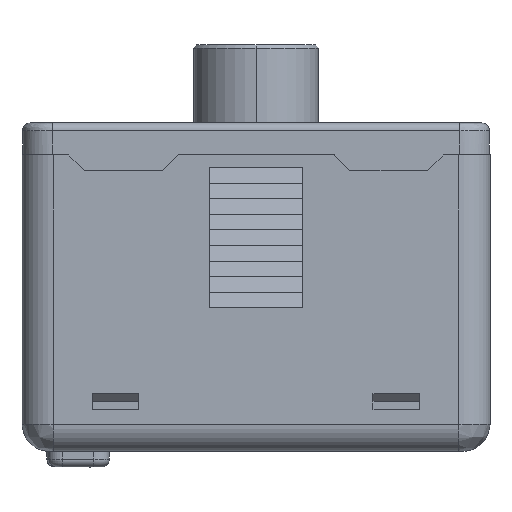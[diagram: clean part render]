
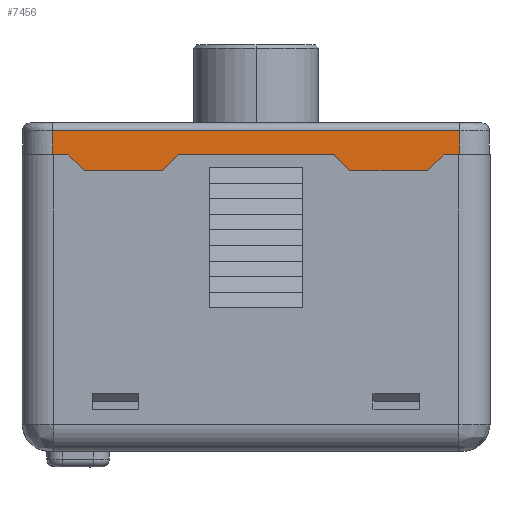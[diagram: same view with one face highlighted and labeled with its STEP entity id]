
A CAD part, left-side view. The second image highlights one B-rep face of the part: STEP entity #7456.
In plain terms, the highlighted planar face has unit normal (-1, 0, 0.009).
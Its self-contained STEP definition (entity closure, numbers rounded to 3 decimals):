
#110 = CARTESIAN_POINT ( 'NONE',  ( -39.967, -67.462, 0.01 ) ) ;
#190 = DIRECTION ( 'NONE',  ( 0., -1., 0. ) ) ;
#296 = EDGE_CURVE ( 'NONE', #444, #12205, #9133, .T. ) ;
#298 = VERTEX_POINT ( 'NONE', #16671 ) ;
#375 = ORIENTED_EDGE ( 'NONE', *, *, #21994, .T. ) ;
#444 = VERTEX_POINT ( 'NONE', #2298 ) ;
#639 = DIRECTION ( 'NONE',  ( 0.007, 0.643, 0.766 ) ) ;
#781 = VERTEX_POINT ( 'NONE', #17230 ) ;
#1206 = DIRECTION ( 'NONE',  ( -0.006, 0.707, -0.707 ) ) ;
#1502 = VECTOR ( 'NONE', #7101, 1000. ) ;
#1591 = CARTESIAN_POINT ( 'NONE',  ( -39.967, -74.69, 0.01 ) ) ;
#1884 = ORIENTED_EDGE ( 'NONE', *, *, #3187, .T. ) ;
#1942 = EDGE_CURVE ( 'NONE', #3034, #10874, #22831, .T. ) ;
#1990 = CARTESIAN_POINT ( 'NONE',  ( -39.975, -68.369, -0.909 ) ) ;
#2017 = DIRECTION ( 'NONE',  ( 1., 0., -0.009 ) ) ;
#2225 = VERTEX_POINT ( 'NONE', #7692 ) ;
#2290 = LINE ( 'NONE', #11624, #10925 ) ;
#2298 = CARTESIAN_POINT ( 'NONE',  ( -39.968, -67.524, -0.064 ) ) ;
#2369 = LINE ( 'NONE', #4363, #6111 ) ;
#2552 = LINE ( 'NONE', #21974, #22938 ) ;
#2656 = CARTESIAN_POINT ( 'NONE',  ( -39.967, -49.432, 0.01 ) ) ;
#2749 = AXIS2_PLACEMENT_3D ( 'NONE', #11160, #2017, #190 ) ;
#2802 = VECTOR ( 'NONE', #5470, 1000. ) ;
#2896 = CARTESIAN_POINT ( 'NONE',  ( -39.967, -57.538, 0.01 ) ) ;
#2985 = EDGE_CURVE ( 'NONE', #11643, #298, #2369, .T. ) ;
#3012 = LINE ( 'NONE', #2896, #21963 ) ;
#3034 = VERTEX_POINT ( 'NONE', #22983 ) ;
#3129 = DIRECTION ( 'NONE',  ( -0.007, 0.643, -0.766 ) ) ;
#3187 = EDGE_CURVE ( 'NONE', #19683, #7683, #13553, .T. ) ;
#3321 = CARTESIAN_POINT ( 'NONE',  ( -39.968, -47.5, -0.04 ) ) ;
#3400 = CARTESIAN_POINT ( 'NONE',  ( -39.967, -57.538, 0.01 ) ) ;
#3605 = DIRECTION ( 'NONE',  ( 0., -1., 0. ) ) ;
#3760 = CARTESIAN_POINT ( 'NONE',  ( -39.967, -57.538, 0.01 ) ) ;
#3770 = ORIENTED_EDGE ( 'NONE', *, *, #23713, .T. ) ;
#3885 = CARTESIAN_POINT ( 'NONE',  ( -39.977, -73.5, -1.04 ) ) ;
#4051 = CARTESIAN_POINT ( 'NONE',  ( -39.967, -49.432, 0.01 ) ) ;
#4173 = ORIENTED_EDGE ( 'NONE', *, *, #1942, .F. ) ;
#4198 = LINE ( 'NONE', #8254, #11094 ) ;
#4308 = ORIENTED_EDGE ( 'NONE', *, *, #10461, .F. ) ;
#4363 = CARTESIAN_POINT ( 'NONE',  ( -39.977, -51.36, -1.04 ) ) ;
#4490 = CARTESIAN_POINT ( 'NONE',  ( -39.968, -74.64, -0.04 ) ) ;
#4658 = CARTESIAN_POINT ( 'NONE',  ( -39.967, -74.631, 0.091 ) ) ;
#5103 = EDGE_LOOP ( 'NONE', ( #23695, #375, #12914, #19692, #4308, #7781, #17028, #15642, #1884, #15886, #7622, #4173, #13902, #10938, #3770, #19344, #13395, #17404 ) ) ;
#5261 = DIRECTION ( 'NONE',  ( 0., -1., 0. ) ) ;
#5470 = DIRECTION ( 'NONE',  ( 0., 1., 0. ) ) ;
#6111 = VECTOR ( 'NONE', #13341, 1000. ) ;
#6168 = EDGE_CURVE ( 'NONE', #10261, #14349, #16277, .T. ) ;
#6318 = DIRECTION ( 'NONE',  ( 0., 1., 0. ) ) ;
#6388 = LINE ( 'NONE', #21737, #1502 ) ;
#6500 = DIRECTION ( 'NONE',  ( 0.006, -0.707, 0.707 ) ) ;
#6606 = VECTOR ( 'NONE', #19186, 1000. ) ;
#6744 = CARTESIAN_POINT ( 'NONE',  ( -39.968, -50.36, -0.04 ) ) ;
#6939 = LINE ( 'NONE', #1591, #21840 ) ;
#7067 = DIRECTION ( 'NONE',  ( 0.006, -0.707, 0.707 ) ) ;
#7073 = CARTESIAN_POINT ( 'NONE',  ( -39.967, -75.568, 0.01 ) ) ;
#7096 = CARTESIAN_POINT ( 'NONE',  ( -39.968, -47.5, -0.04 ) ) ;
#7101 = DIRECTION ( 'NONE',  ( -0.006, -0.707, -0.707 ) ) ;
#7196 = EDGE_CURVE ( 'NONE', #11643, #21061, #10214, .T. ) ;
#7290 = CARTESIAN_POINT ( 'NONE',  ( -39.968, -50.5, -0.04 ) ) ;
#7393 = DIRECTION ( 'NONE',  ( -0.006, -0.707, -0.707 ) ) ;
#7399 = CARTESIAN_POINT ( 'NONE',  ( -39.954, -75.554, 1.514 ) ) ;
#7430 = VERTEX_POINT ( 'NONE', #110 ) ;
#7456 = ADVANCED_FACE ( 'NONE', ( #10186 ), #22158, .F. ) ;
#7622 = ORIENTED_EDGE ( 'NONE', *, *, #11984, .T. ) ;
#7683 = VERTEX_POINT ( 'NONE', #4490 ) ;
#7692 = CARTESIAN_POINT ( 'NONE',  ( -39.968, -57.476, -0.064 ) ) ;
#7699 = LINE ( 'NONE', #7399, #2802 ) ;
#7781 = ORIENTED_EDGE ( 'NONE', *, *, #296, .T. ) ;
#8005 = VERTEX_POINT ( 'NONE', #21195 ) ;
#8254 = CARTESIAN_POINT ( 'NONE',  ( -39.967, -57.631, 0.091 ) ) ;
#8321 = DIRECTION ( 'NONE',  ( -0.009, 0.009, -1. ) ) ;
#8674 = EDGE_CURVE ( 'NONE', #21061, #14349, #6388, .T. ) ;
#8749 = VECTOR ( 'NONE', #8321, 1000. ) ;
#8846 = CARTESIAN_POINT ( 'NONE',  ( -39.977, -56.5, -1.04 ) ) ;
#9133 = LINE ( 'NONE', #1990, #15732 ) ;
#9929 = CARTESIAN_POINT ( 'NONE',  ( -39.954, -49.446, 1.514 ) ) ;
#10146 = VERTEX_POINT ( 'NONE', #3400 ) ;
#10186 = FACE_OUTER_BOUND ( 'NONE', #5103, .T. ) ;
#10214 = LINE ( 'NONE', #7096, #15095 ) ;
#10261 = VERTEX_POINT ( 'NONE', #8846 ) ;
#10461 = EDGE_CURVE ( 'NONE', #444, #7430, #2290, .T. ) ;
#10482 = VECTOR ( 'NONE', #3605, 1000. ) ;
#10820 = VECTOR ( 'NONE', #6318, 1000. ) ;
#10874 = VERTEX_POINT ( 'NONE', #7073 ) ;
#10925 = VECTOR ( 'NONE', #639, 1000. ) ;
#10938 = ORIENTED_EDGE ( 'NONE', *, *, #15961, .T. ) ;
#11066 = LINE ( 'NONE', #3760, #10482 ) ;
#11094 = VECTOR ( 'NONE', #7067, 1000. ) ;
#11160 = CARTESIAN_POINT ( 'NONE',  ( -39.95, -79.308, 2.01 ) ) ;
#11624 = CARTESIAN_POINT ( 'NONE',  ( -39.977, -68.343, -1.04 ) ) ;
#11643 = VERTEX_POINT ( 'NONE', #6744 ) ;
#11683 = CARTESIAN_POINT ( 'NONE',  ( -39.977, -56.657, -1.04 ) ) ;
#11984 = EDGE_CURVE ( 'NONE', #781, #10874, #6939, .T. ) ;
#12062 = CARTESIAN_POINT ( 'NONE',  ( -39.968, -74.5, -0.04 ) ) ;
#12205 = VERTEX_POINT ( 'NONE', #22514 ) ;
#12646 = DIRECTION ( 'NONE',  ( 0., 1., 0. ) ) ;
#12914 = ORIENTED_EDGE ( 'NONE', *, *, #15400, .F. ) ;
#12958 = VERTEX_POINT ( 'NONE', #4051 ) ;
#13341 = DIRECTION ( 'NONE',  ( 0.006, 0.707, 0.707 ) ) ;
#13395 = ORIENTED_EDGE ( 'NONE', *, *, #7196, .T. ) ;
#13553 = LINE ( 'NONE', #3321, #19015 ) ;
#13902 = ORIENTED_EDGE ( 'NONE', *, *, #13915, .T. ) ;
#13915 = EDGE_CURVE ( 'NONE', #3034, #8005, #7699, .T. ) ;
#14292 = DIRECTION ( 'NONE',  ( 0., -1., 0. ) ) ;
#14349 = VERTEX_POINT ( 'NONE', #22930 ) ;
#15095 = VECTOR ( 'NONE', #14292, 1000. ) ;
#15164 = VERTEX_POINT ( 'NONE', #3885 ) ;
#15400 = EDGE_CURVE ( 'NONE', #10146, #2225, #3012, .T. ) ;
#15642 = ORIENTED_EDGE ( 'NONE', *, *, #20338, .T. ) ;
#15732 = VECTOR ( 'NONE', #7393, 1000. ) ;
#15796 = VECTOR ( 'NONE', #1206, 1000. ) ;
#15886 = ORIENTED_EDGE ( 'NONE', *, *, #23741, .F. ) ;
#15961 = EDGE_CURVE ( 'NONE', #8005, #12958, #22249, .T. ) ;
#16277 = LINE ( 'NONE', #11683, #10820 ) ;
#16671 = CARTESIAN_POINT ( 'NONE',  ( -39.967, -50.31, 0.01 ) ) ;
#17028 = ORIENTED_EDGE ( 'NONE', *, *, #20538, .F. ) ;
#17230 = CARTESIAN_POINT ( 'NONE',  ( -39.967, -74.69, 0.01 ) ) ;
#17404 = ORIENTED_EDGE ( 'NONE', *, *, #8674, .T. ) ;
#17858 = CARTESIAN_POINT ( 'NONE',  ( -39.954, -75.554, 1.514 ) ) ;
#17930 = VECTOR ( 'NONE', #19721, 1000. ) ;
#18085 = LINE ( 'NONE', #23280, #15796 ) ;
#18659 = LINE ( 'NONE', #4658, #21791 ) ;
#19015 = VECTOR ( 'NONE', #5261, 1000. ) ;
#19186 = DIRECTION ( 'NONE',  ( 0., -1., 0. ) ) ;
#19344 = ORIENTED_EDGE ( 'NONE', *, *, #2985, .F. ) ;
#19683 = VERTEX_POINT ( 'NONE', #12062 ) ;
#19692 = ORIENTED_EDGE ( 'NONE', *, *, #22178, .T. ) ;
#19721 = DIRECTION ( 'NONE',  ( -0.009, -0.009, -1. ) ) ;
#20338 = EDGE_CURVE ( 'NONE', #15164, #19683, #18659, .T. ) ;
#20538 = EDGE_CURVE ( 'NONE', #15164, #12205, #2552, .T. ) ;
#21061 = VERTEX_POINT ( 'NONE', #7290 ) ;
#21195 = CARTESIAN_POINT ( 'NONE',  ( -39.954, -49.446, 1.514 ) ) ;
#21633 = DIRECTION ( 'NONE',  ( 0., -1., 0. ) ) ;
#21737 = CARTESIAN_POINT ( 'NONE',  ( -39.975, -51.369, -0.909 ) ) ;
#21791 = VECTOR ( 'NONE', #6500, 1000. ) ;
#21840 = VECTOR ( 'NONE', #21633, 1000. ) ;
#21963 = VECTOR ( 'NONE', #3129, 1000. ) ;
#21974 = CARTESIAN_POINT ( 'NONE',  ( -39.977, -73.64, -1.04 ) ) ;
#21994 = EDGE_CURVE ( 'NONE', #10261, #2225, #4198, .T. ) ;
#22158 = PLANE ( 'NONE',  #2749 ) ;
#22178 = EDGE_CURVE ( 'NONE', #10146, #7430, #11066, .T. ) ;
#22249 = LINE ( 'NONE', #9929, #8749 ) ;
#22399 = LINE ( 'NONE', #2656, #6606 ) ;
#22514 = CARTESIAN_POINT ( 'NONE',  ( -39.977, -68.5, -1.04 ) ) ;
#22831 = LINE ( 'NONE', #17858, #17930 ) ;
#22930 = CARTESIAN_POINT ( 'NONE',  ( -39.977, -51.5, -1.04 ) ) ;
#22938 = VECTOR ( 'NONE', #12646, 1000. ) ;
#22983 = CARTESIAN_POINT ( 'NONE',  ( -39.954, -75.554, 1.514 ) ) ;
#23280 = CARTESIAN_POINT ( 'NONE',  ( -39.967, -74.69, 0.01 ) ) ;
#23695 = ORIENTED_EDGE ( 'NONE', *, *, #6168, .F. ) ;
#23713 = EDGE_CURVE ( 'NONE', #12958, #298, #22399, .T. ) ;
#23741 = EDGE_CURVE ( 'NONE', #781, #7683, #18085, .T. ) ;
